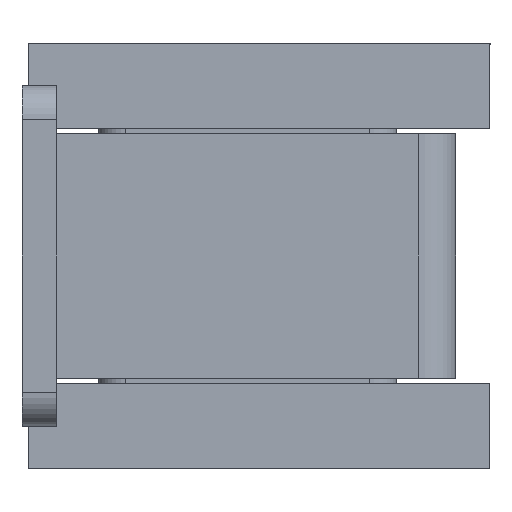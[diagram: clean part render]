
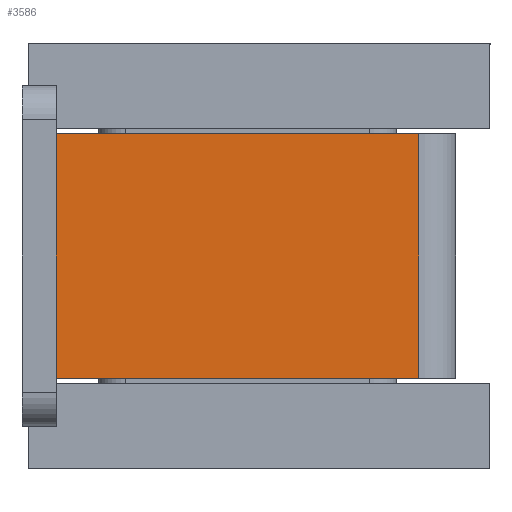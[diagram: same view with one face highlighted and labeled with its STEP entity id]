
A CAD part, left-side view. The second image highlights one B-rep face of the part: STEP entity #3586.
In plain terms, the highlighted planar face has unit normal (-1, 0, 0).
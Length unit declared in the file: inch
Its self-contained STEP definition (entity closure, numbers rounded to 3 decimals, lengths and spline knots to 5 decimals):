
#51 = ORIENTED_EDGE ( 'NONE', *, *, #861, .T. ) ;
#61 = LINE ( 'NONE', #1458, #2913 ) ;
#393 = FACE_OUTER_BOUND ( 'NONE', #2307, .T. ) ;
#440 = LINE ( 'NONE', #2648, #1800 ) ;
#494 = VECTOR ( 'NONE', #1516, 39.37008 ) ;
#498 = ORIENTED_EDGE ( 'NONE', *, *, #2054, .T. ) ;
#700 = VERTEX_POINT ( 'NONE', #2328 ) ;
#861 = EDGE_CURVE ( 'NONE', #3463, #700, #61, .T. ) ;
#937 = ORIENTED_EDGE ( 'NONE', *, *, #2347, .F. ) ;
#989 = ORIENTED_EDGE ( 'NONE', *, *, #3323, .T. ) ;
#1014 = AXIS2_PLACEMENT_3D ( 'NONE', #1085, #1353, #1870 ) ;
#1024 = DIRECTION ( 'NONE',  ( 0., 1., 0. ) ) ;
#1085 = CARTESIAN_POINT ( 'NONE',  ( -1.94062, -1.225, 0.35938 ) ) ;
#1244 = CARTESIAN_POINT ( 'NONE',  ( -1.94062, -0.1, 0.35937 ) ) ;
#1353 = DIRECTION ( 'NONE',  ( 1., 0., 0. ) ) ;
#1458 = CARTESIAN_POINT ( 'NONE',  ( -1.94062, -0.1, -0.35937 ) ) ;
#1516 = DIRECTION ( 'NONE',  ( 0., 0., -1. ) ) ;
#1775 = CARTESIAN_POINT ( 'NONE',  ( -1.94062, -1.165, 0.35937 ) ) ;
#1800 = VECTOR ( 'NONE', #1024, 39.37008 ) ;
#1870 = DIRECTION ( 'NONE',  ( 0., 1., 0. ) ) ;
#1897 = VECTOR ( 'NONE', #3529, 39.37008 ) ;
#2005 = CARTESIAN_POINT ( 'NONE',  ( -1.94062, -1.165, -0.35937 ) ) ;
#2022 = DIRECTION ( 'NONE',  ( 0., 0., -1. ) ) ;
#2054 = EDGE_CURVE ( 'NONE', #700, #2832, #2162, .T. ) ;
#2162 = LINE ( 'NONE', #2818, #1897 ) ;
#2290 = VERTEX_POINT ( 'NONE', #1775 ) ;
#2307 = EDGE_LOOP ( 'NONE', ( #937, #989, #51, #498 ) ) ;
#2328 = CARTESIAN_POINT ( 'NONE',  ( -1.94062, -0.1, -0.35937 ) ) ;
#2347 = EDGE_CURVE ( 'NONE', #2290, #2832, #2688, .T. ) ;
#2648 = CARTESIAN_POINT ( 'NONE',  ( -1.94062, -0.1, 0.35937 ) ) ;
#2688 = LINE ( 'NONE', #3153, #494 ) ;
#2818 = CARTESIAN_POINT ( 'NONE',  ( -1.94062, -1.225, -0.35937 ) ) ;
#2832 = VERTEX_POINT ( 'NONE', #2005 ) ;
#2913 = VECTOR ( 'NONE', #2022, 39.37008 ) ;
#3153 = CARTESIAN_POINT ( 'NONE',  ( -1.94062, -1.165, 0.35938 ) ) ;
#3243 = PLANE ( 'NONE',  #1014 ) ;
#3323 = EDGE_CURVE ( 'NONE', #2290, #3463, #440, .T. ) ;
#3463 = VERTEX_POINT ( 'NONE', #1244 ) ;
#3529 = DIRECTION ( 'NONE',  ( 0., -1., 0. ) ) ;
#3586 = ADVANCED_FACE ( 'NONE', ( #393 ), #3243, .F. ) ;
